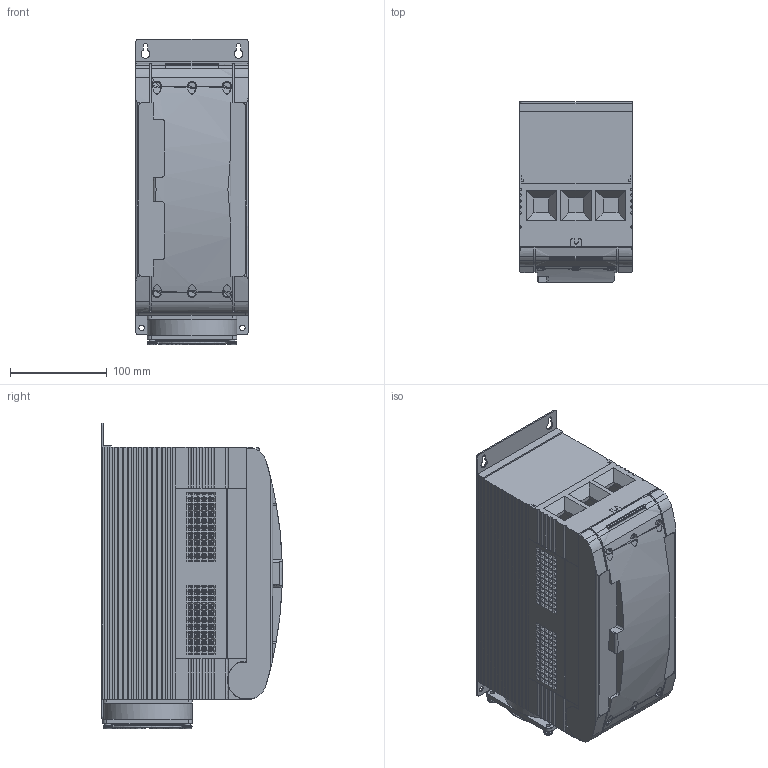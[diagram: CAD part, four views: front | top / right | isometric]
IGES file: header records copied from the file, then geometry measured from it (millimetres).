
Global section: file name: S9; native system: AutoCAD 2015 - Italiano (Italian); preprocessor: Autodesk Translation Framework DWG producer (atf_dwg_producer); organization: unknown; date: 20180202.123938; units: millimetre
Bounding box: 116 x 186.17 x 315.36 mm (x, y, z)
Volume: 5372847.2 mm3; surface area: 272984.8 mm2
Topology: 8 solids, 31 shells, 2835 faces, 6710 edges, 4135 vertices
Faces by surface type: bspline 2835
